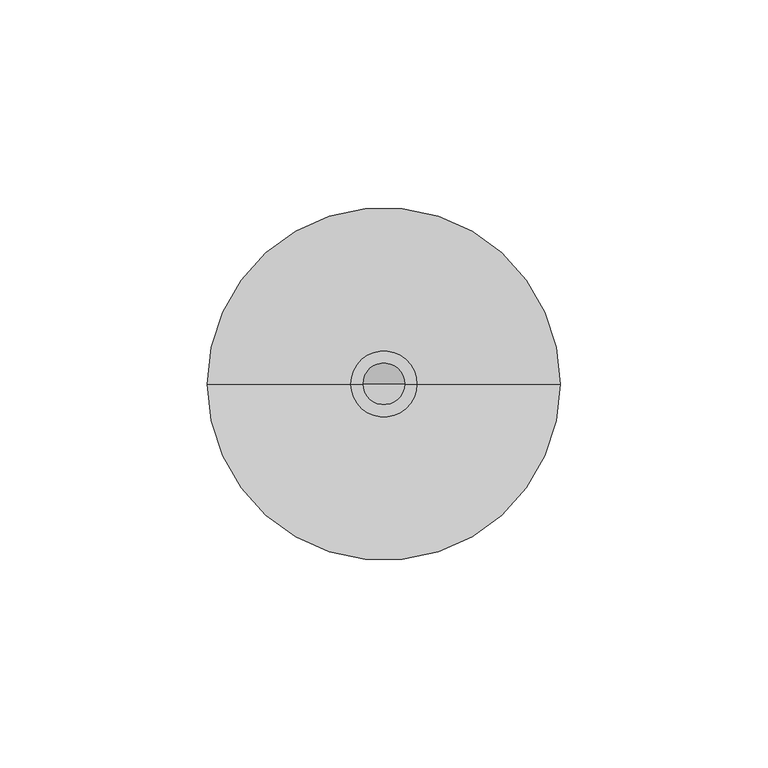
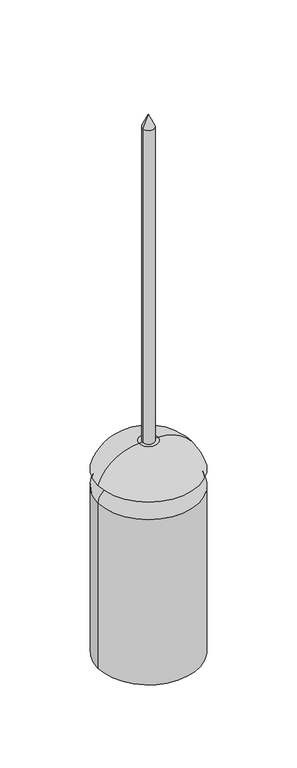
"""IFC4 building model written with IfcOpenShell, lengths in millimetres: proxy geometry, КНС_ESEМолниеприемник_DKC : NI0045_Нержавеющая сталь V4A."""

from ifc_helpers import new_model, si_unit, point, frame, origin, place, context, project, spatial, polyline, circle_curve, ellipse_curve, trimmed, source, transform, mapped, element, save
from ifc_brep_helpers import plane_surface, cylinder_surface, revolved_surface, advanced_brep


def security_devices_8f3e5d56(model_context):
    return source(origin(), model_context, "Body", "AdvancedBrep", [
        advanced_brep(
        [(5.0, 0.0, 468.2774654), (-5.0, 0.0, 468.2774654), (0.0, 0.0, 479.0), (5.0, 0.0, 189.5), (-5.0, 0.0, 189.5), (0.0, 0.0, 189.5)],
        [
            (0, 1, circle_curve(frame((0.0, 0.0, 468.2774654), z_axis=(0.0, 0.0, 1.0), x_axis=(-1.0, 0.0, 0.0)), 5.0)),
            (1, 2),
            (2, 0),
            (1, 0, circle_curve(frame((0.0, 0.0, 468.2774654), z_axis=(0.0, 0.0, 1.0), x_axis=(-1.0, 0.0, 0.0)), 5.0)),
            (3, 4, circle_curve(frame((0.0, 0.0, 189.5), z_axis=(0.0, 0.0, 1.0), x_axis=(-1.0, 0.0, 0.0)), 5.0)),
            (4, 1),
            (0, 3),
            (4, 3, circle_curve(frame((0.0, 0.0, 189.5), z_axis=(0.0, 0.0, 1.0), x_axis=(-1.0, 0.0, 0.0)), 5.0)),
            (5, 4),
            (3, 5),
        ],
        [
            revolved_surface(polyline([(0.0, 0.0, 479.0), (-5.0, 0.0, 468.2774654)]), (0.0, 0.0, 2314.3150031), (0.0, 0.0, -1.0)),
            cylinder_surface(frame((0.0, 0.0, 2314.3150031), z_axis=(0.0, 0.0, -1.0), x_axis=(-1.0, 0.0, 0.0)), 5.0),
            plane_surface(frame((0.0, 0.0, 189.5), z_axis=(0.0, 0.0, -1.0), x_axis=(-1.0, 0.0, 0.0))),
        ],
        [
            (0, [[1, 2, 3]]),
            (0, [[4, -3, -2]]),
            (1, [[5, 6, -1, 7]]),
            (1, [[8, -7, -4, -6]]),
            (2, [[9, -5, 10]]),
            (2, [[-10, -8, -9]]),
        ],
    ),
        advanced_brep(
        [(0.0, 0.0, 0.0), (-14.0, 0.0, 0.0), (14.0, 0.0, 0.0), (7.9645399, 0.0, 189.5), (-7.9645399, 0.0, 189.5), (0.0, 0.0, 189.5), (42.5, 0.0, 164.4085195), (-42.5, 0.0, 164.4085195), (41.4469613, 0.0, 164.4085195), (-41.4469613, 0.0, 164.4085195), (14.0, 0.0, 187.9804033), (-14.0, 0.0, 187.9804033), (14.0, 0.0, 159.5), (-14.0, 0.0, 159.5), (29.8018389, 0.0, 159.5), (-29.8018389, 0.0, 159.5), (42.5, 0.0, 148.8449777), (-42.5, 0.0, 148.8449777), (42.5, 0.0, 2.0), (-42.5, 0.0, 2.0), (41.5, 0.0, 2.0), (-41.5, 0.0, 2.0), (41.5, 0.0, 27.0), (-41.5, 0.0, 27.0), (14.0, 0.0, 27.0), (-14.0, 0.0, 27.0)],
        [
            (0, 1),
            (1, 2, circle_curve(frame((0.0, 0.0, 0.0), z_axis=(0.0, 0.0, -1.0), x_axis=(-1.0, 0.0, 0.0)), 14.0)),
            (2, 0),
            (2, 1, circle_curve(frame((0.0, 0.0, 0.0), z_axis=(0.0, 0.0, -1.0), x_axis=(-1.0, 0.0, 0.0)), 14.0)),
            (3, 4, circle_curve(frame((0.0, 0.0, 189.5), z_axis=(0.0, 0.0, 1.0), x_axis=(-1.0, 0.0, 0.0)), 7.9645399)),
            (4, 5),
            (5, 3),
            (4, 3, circle_curve(frame((0.0, 0.0, 189.5), z_axis=(0.0, 0.0, 1.0), x_axis=(-1.0, 0.0, 0.0)), 7.9645399)),
            (6, 7, circle_curve(frame((0.0, 0.0, 164.4085195), z_axis=(0.0, 0.0, 1.0), x_axis=(-1.0, 0.0, 0.0)), 42.5)),
            (7, 4, circle_curve(frame((-7.9645399, 0.0, 153.1872683), z_axis=(0.0, 1.0, 0.0), x_axis=(1.0, 0.0, 0.0)), 36.3127317)),
            (3, 6, circle_curve(frame((7.9645399, 0.0, 153.1872683), z_axis=(0.0, 1.0, 0.0), x_axis=(-1.0, 0.0, 0.0)), 36.3127317)),
            (7, 6, circle_curve(frame((0.0, 0.0, 164.4085195), z_axis=(0.0, 0.0, 1.0), x_axis=(-1.0, 0.0, 0.0)), 42.5)),
            (8, 9, circle_curve(frame((0.0, 0.0, 164.4085195), z_axis=(0.0, 0.0, 1.0), x_axis=(-1.0, 0.0, 0.0)), 41.4469613)),
            (9, 7),
            (6, 8),
            (9, 8, circle_curve(frame((0.0, 0.0, 164.4085195), z_axis=(0.0, 0.0, 1.0), x_axis=(-1.0, 0.0, 0.0)), 41.4469613)),
            (10, 11, circle_curve(frame((0.0, 0.0, 187.9804033), z_axis=(0.0, 0.0, 1.0), x_axis=(-1.0, 0.0, 0.0)), 14.0)),
            (11, 9, circle_curve(frame((-7.9645399, 0.0, 153.1872683), z_axis=(0.0, -1.0, 0.0), x_axis=(1.0, 0.0, 0.0)), 35.3127317)),
            (8, 10, circle_curve(frame((7.9645399, 0.0, 153.1872683), z_axis=(0.0, -1.0, 0.0), x_axis=(-1.0, 0.0, 0.0)), 35.3127317)),
            (11, 10, circle_curve(frame((0.0, 0.0, 187.9804033), z_axis=(0.0, 0.0, 1.0), x_axis=(-1.0, 0.0, 0.0)), 14.0)),
            (12, 13, circle_curve(frame((0.0, 0.0, 159.5), z_axis=(0.0, 0.0, 1.0), x_axis=(-1.0, 0.0, 0.0)), 14.0)),
            (13, 11),
            (10, 12),
            (13, 12, circle_curve(frame((0.0, 0.0, 159.5), z_axis=(0.0, 0.0, 1.0), x_axis=(-1.0, 0.0, 0.0)), 14.0)),
            (14, 15, circle_curve(frame((0.0, 0.0, 159.5), z_axis=(0.0, 0.0, 1.0), x_axis=(-1.0, 0.0, 0.0)), 29.8018389)),
            (15, 13),
            (12, 14),
            (15, 14, circle_curve(frame((0.0, 0.0, 159.5), z_axis=(0.0, 0.0, 1.0), x_axis=(-1.0, 0.0, 0.0)), 29.8018389)),
            (16, 17, circle_curve(frame((0.0, 0.0, 148.8449777), z_axis=(0.0, 0.0, 1.0), x_axis=(-1.0, 0.0, 0.0)), 42.5)),
            (17, 15, circle_curve(frame((-31.6806068, 0.0, 148.8449777), z_axis=(0.0, 1.0, 0.0), x_axis=(1.0, 0.0, 0.0)), 10.8193932)),
            (14, 16, circle_curve(frame((31.6806068, 0.0, 148.8449777), z_axis=(0.0, 1.0, 0.0), x_axis=(-1.0, 0.0, 0.0)), 10.8193932)),
            (17, 16, circle_curve(frame((0.0, 0.0, 148.8449777), z_axis=(0.0, 0.0, 1.0), x_axis=(-1.0, 0.0, 0.0)), 42.5)),
            (18, 19, circle_curve(frame((0.0, 0.0, 2.0), z_axis=(0.0, 0.0, 1.0), x_axis=(-1.0, 0.0, 0.0)), 42.5)),
            (19, 17),
            (16, 18),
            (19, 18, circle_curve(frame((0.0, 0.0, 2.0), z_axis=(0.0, 0.0, 1.0), x_axis=(-1.0, 0.0, 0.0)), 42.5)),
            (20, 21, circle_curve(frame((0.0, 0.0, 2.0), z_axis=(0.0, 0.0, 1.0), x_axis=(-1.0, 0.0, 0.0)), 41.5)),
            (21, 19),
            (18, 20),
            (21, 20, circle_curve(frame((0.0, 0.0, 2.0), z_axis=(0.0, 0.0, 1.0), x_axis=(-1.0, 0.0, 0.0)), 41.5)),
            (22, 23, circle_curve(frame((0.0, 0.0, 27.0), z_axis=(0.0, 0.0, 1.0), x_axis=(-1.0, 0.0, 0.0)), 41.5)),
            (23, 21),
            (20, 22),
            (23, 22, circle_curve(frame((0.0, 0.0, 27.0), z_axis=(0.0, 0.0, 1.0), x_axis=(-1.0, 0.0, 0.0)), 41.5)),
            (24, 25, circle_curve(frame((0.0, 0.0, 27.0), z_axis=(0.0, 0.0, 1.0), x_axis=(-1.0, 0.0, 0.0)), 14.0)),
            (25, 23),
            (22, 24),
            (25, 24, circle_curve(frame((0.0, 0.0, 27.0), z_axis=(0.0, 0.0, 1.0), x_axis=(-1.0, 0.0, 0.0)), 14.0)),
            (1, 25),
            (24, 2),
        ],
        [
            plane_surface(frame((0.0, 0.0, 0.0), z_axis=(0.0, 0.0, -1.0), x_axis=(-1.0, 0.0, 0.0))),
            plane_surface(frame((0.0, 0.0, 189.5), z_axis=(0.0, 0.0, 1.0), x_axis=(-1.0, 0.0, 0.0))),
            revolved_surface(trimmed(ellipse_curve(frame((-7.9645399, 0.0, 153.1872683), z_axis=(0.0, -1.0, 0.0), x_axis=(1.0, 0.0, 0.0)), 36.3127317, 36.3127317), [point((-7.9645399, 0.0, 189.5))], [point((-42.5, 0.0, 164.4085195))], True, "CARTESIAN"), (0.0, 0.0, 122.0), (0.0, 0.0, -1.0)),
            plane_surface(frame((0.0, 0.0, 164.4085195), z_axis=(0.0, 0.0, -1.0), x_axis=(-1.0, 0.0, 0.0))),
            revolved_surface(trimmed(ellipse_curve(frame((-7.9645399, 0.0, 153.1872683), z_axis=(0.0, 1.0, 0.0), x_axis=(1.0, 0.0, 0.0)), 35.3127317, 35.3127317), [point((-41.4469613, 0.0, 164.4085195))], [point((-14.0, 0.0, 187.9804033))], True, "CARTESIAN"), (0.0, 0.0, 122.0), (0.0, 0.0, -1.0)),
            cylinder_surface(frame((0.0, 0.0, 122.0), z_axis=(0.0, 0.0, -1.0), x_axis=(-1.0, 0.0, 0.0)), 14.0),
            plane_surface(frame((0.0, 0.0, 159.5), z_axis=(0.0, 0.0, 1.0), x_axis=(-1.0, 0.0, 0.0))),
            revolved_surface(trimmed(ellipse_curve(frame((-31.6806068, 0.0, 148.8449777), z_axis=(0.0, -1.0, 0.0), x_axis=(1.0, 0.0, 0.0)), 10.8193932, 10.8193932), [point((-29.8018389, 0.0, 159.5))], [point((-42.5, 0.0, 148.8449777))], True, "CARTESIAN"), (0.0, 0.0, 122.0), (0.0, 0.0, -1.0)),
            cylinder_surface(frame((0.0, 0.0, 122.0), z_axis=(0.0, 0.0, -1.0), x_axis=(-1.0, 0.0, 0.0)), 42.5),
            plane_surface(frame((0.0, 0.0, 2.0), z_axis=(0.0, 0.0, -1.0), x_axis=(-1.0, 0.0, 0.0))),
            revolved_surface(polyline([(-41.5, 0.0, 2.0), (-41.5, 0.0, 27.0)]), (0.0, 0.0, 122.0), (0.0, 0.0, -1.0)),
            plane_surface(frame((0.0, 0.0, 27.0), z_axis=(0.0, 0.0, -1.0), x_axis=(-1.0, 0.0, 0.0))),
        ],
        [
            (0, [[1, 2, 3]]),
            (0, [[-3, 4, -1]]),
            (1, [[5, 6, 7]]),
            (1, [[8, -7, -6]]),
            (2, [[9, 10, -5, 11]]),
            (2, [[12, -11, -8, -10]]),
            (3, [[13, 14, -9, 15]]),
            (3, [[16, -15, -12, -14]]),
            (4, [[17, 18, -13, 19]]),
            (4, [[20, -19, -16, -18]]),
            (5, [[21, 22, -17, 23]]),
            (5, [[24, -23, -20, -22]]),
            (6, [[25, 26, -21, 27]]),
            (6, [[28, -27, -24, -26]]),
            (7, [[29, 30, -25, 31]]),
            (7, [[32, -31, -28, -30]]),
            (8, [[33, 34, -29, 35]]),
            (8, [[36, -35, -32, -34]]),
            (9, [[37, 38, -33, 39]]),
            (9, [[40, -39, -36, -38]]),
            (10, [[41, 42, -37, 43]]),
            (10, [[44, -43, -40, -42]]),
            (11, [[45, 46, -41, 47]]),
            (11, [[48, -47, -44, -46]]),
            (5, [[-2, 49, -45, 50]]),
            (5, [[-4, -50, -48, -49]]),
        ],
    ),
    ])


if __name__ == "__main__":
    model = new_model("IFC4")
    model_context = context("Model", 3, world=origin())
    ifc_project = project(units=[si_unit("LENGTHUNIT", "METRE", prefix="MILLI")], contexts=[model_context])
    site = spatial("IfcSite", under=ifc_project)
    building = spatial("IfcBuilding", under=site)
    placement = place(None, origin())
    security_devices_shape = security_devices_8f3e5d56(model_context)
    element("IfcBuildingElementProxy", 1, Name="КНС_ESEМолниеприемник_DKC : NI0045_Нержавеющая сталь V4A", ObjectType="КНС_ESEМолниеприемник_DKC : NI0045_Нержавеющая сталь V4A", at=placement, inside=building, context=model_context, shape_type="MappedRepresentation", body=[
        mapped(security_devices_shape, transform((0.0, 0.0, 0.0), x_axis=(1.0, 0.0, 0.0), y_axis=(0.0, 1.0, 0.0), z_axis=(0.0, 0.0, 1.0))),
    ])
    save(model, "model.ifc")
